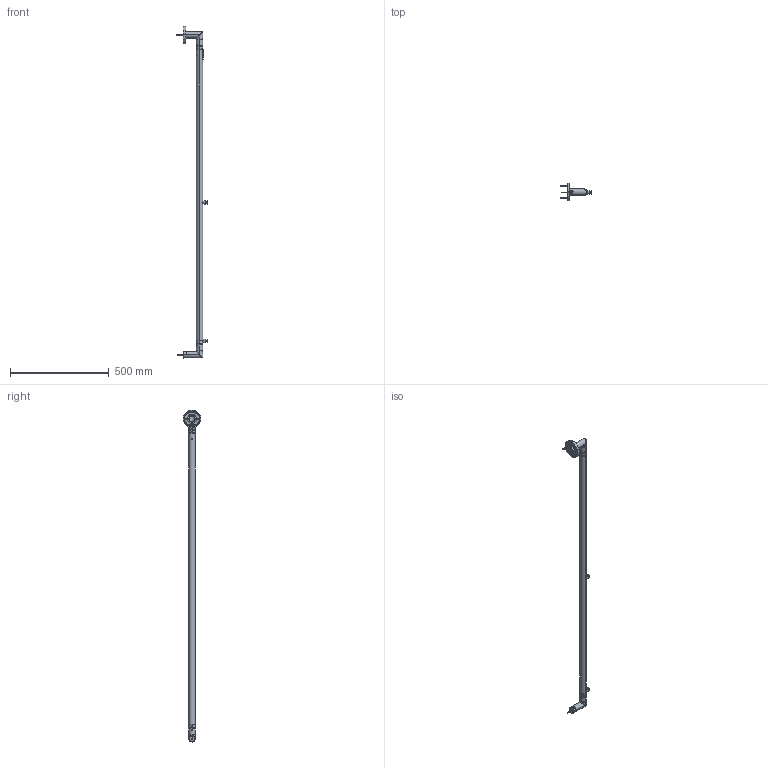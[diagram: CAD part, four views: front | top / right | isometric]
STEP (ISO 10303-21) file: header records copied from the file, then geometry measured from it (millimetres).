
FILE_DESCRIPTION((''),'2;1');
FILE_NAME('SP-1R165T3_ASM','2019-03-29T18:01:12',('Zhang'),(''),'CREO PARAMETRIC BY PTC INC, 2016510','CREO PARAMETRIC BY PTC INC, 2016510','');
FILE_SCHEMA(('CONFIG_CONTROL_DESIGN','GEOMETRIC_VALIDATION_PROPERTIES_MIM'));
Length unit declared in the file: millimetre
Products named in the file (27): R100; 30002; 00; 30001_ASM; 0008; 1600; 000; 0010; 001; 0012; 4X400001; 0006; 2000; 0007; 10001_ASM; 1M4X50001; 200; 0016_ASM; ASM0007_ASM; 320001; M5X7MM0001; 0003_ASM; SP-1R165T3_ASM
Assembly tree (43 placements, depth 4):
  SP-1R165T3_ASM
    R100
    30001_ASM
      30002
      00
    0008
    1600  x2
    ASM0007_ASM
      000
      0010
      001
      0012
      4X400001  x2
      00
      10001_ASM
        0006
        2000
        0007  x4
      1M4X50001
      0008
      0016_ASM
        00
        200
    0003_ASM
      00
      00
      320001
      M5X7MM0001
      0006
      0007  x6
      1M4X50001
      0008
      4X400001
    001
Bounding box: 159.2 x 90 x 1679 mm (x, y, z)
Volume: 248413.7 mm3; surface area: 422260.3 mm2
Topology: 38 solids, 38 shells, 2054 faces, 5006 edges, 3032 vertices
Faces by surface type: cylinder 734, bspline 445, torus 387, plane 316, sphere 107, cone 58, extrusion 7
Entity records: 87576 total; most frequent: CARTESIAN_POINT 51368, ORIENTED_EDGE 7420, DIRECTION 6638, EDGE_CURVE 3710, AXIS2_PLACEMENT_3D 2741, VERTEX_POINT 2232, EDGE_LOOP 1650, FACE_OUTER_BOUND 1545
